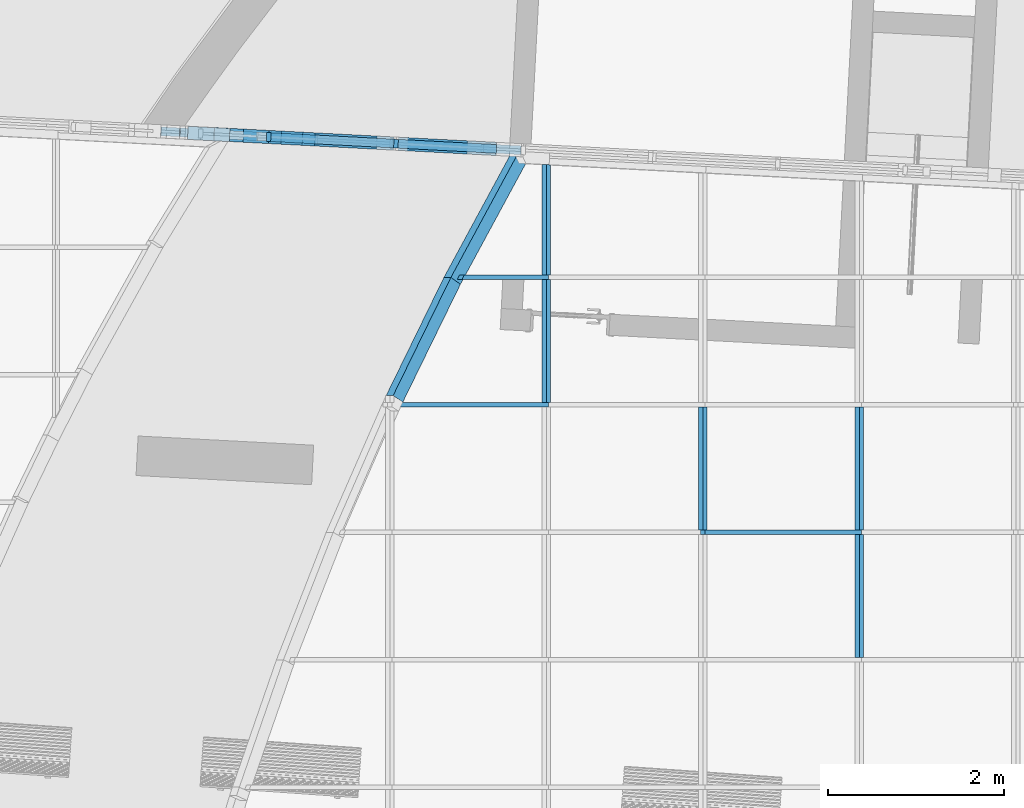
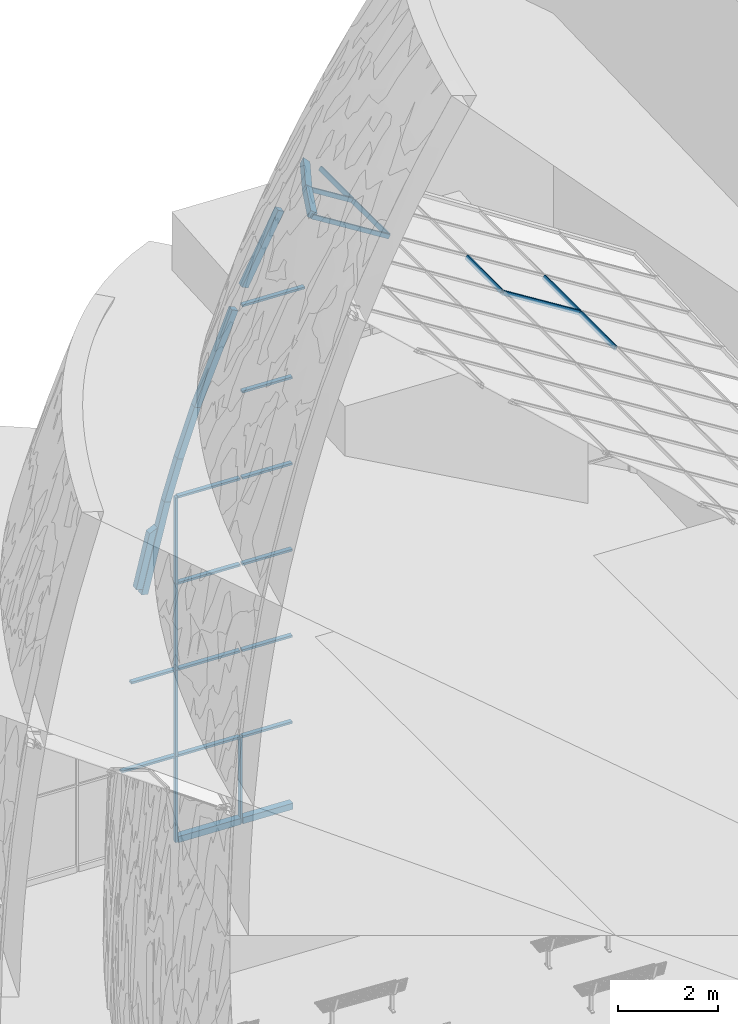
# One storey, part 19 of 82: 35 members, 2 elements without a shape of their own.
"""IFC2X3 building model written with IfcOpenShell, lengths in millimetres."""

import ifcopenshell
import ifcopenshell.guid

model = None  # the IFC model being written
_history = None  # IfcOwnerHistory: only IFC2X3 demands one
_inside = {}  # id of a spatial element -> (the spatial element, [elements in it])
_under = {}  # id of a project, library or spatial element -> (it, [spatial elements below it])
_declared = {}  # id of a project -> (the project, [libraries it declares])
_typed = {}  # id of a type object -> (the type object, [elements of that type])
_made_of = {}  # id of a material, layer set ... -> (it, [elements and type objects made of it])


def new_model(schema):
    """Start an empty IFC model of exactly this schema.

    Asked for "IFC4X3", IfcOpenShell would pick the latest addendum, in which some entities
    have other attributes; the version numbers below select the first issue.
    IFC2X3 requires an IfcOwnerHistory on every rooted entity: one is made here for all.
    """
    global model, _history
    if schema == "IFC4X3":
        model = ifcopenshell.file(schema_version=(4, 3, 0, 0))
    else:
        model = ifcopenshell.file(schema=schema)
    _inside.clear()
    _under.clear()
    _declared.clear()
    _typed.clear()
    _made_of.clear()
    _history = None
    if model.schema == "IFC2X3":
        org = make("IfcOrganization", Name="unknown")
        user = make(
            "IfcPersonAndOrganization",
            ThePerson=make("IfcPerson", FamilyName="unknown"),
            TheOrganization=org,
        )
        app = make(
            "IfcApplication",
            ApplicationDeveloper=org,
            Version="unknown",
            ApplicationFullName="unknown",
            ApplicationIdentifier="unknown",
        )
        _history = make(
            "IfcOwnerHistory",
            OwningUser=user,
            OwningApplication=app,
            ChangeAction="ADDED",
            CreationDate=0,
        )
    return model


def make(cls, **values):
    """One entity of the class cls with the attributes given. An attribute that is None is left unset."""
    return model.create_entity(
        cls, **{name: value for name, value in values.items() if value is not None}
    )


def entity(cls, *values):
    """Any entity or typed value of the class cls, its attributes in the order of the schema. None: left unset."""
    e = model.create_entity(cls)
    for i, value in enumerate(values):
        if value is not None:
            e[i] = value
    return e


def rooted(cls, **values):
    """An entity with a GlobalId (a new one), such as an element, a storey or a relation."""
    return make(cls, GlobalId=ifcopenshell.guid.new(), OwnerHistory=_history, **values)


def si_unit(unit_type, name, prefix=None):
    """IfcSIUnit, for example si_unit("LENGTHUNIT", "METRE", prefix="MILLI")."""
    return make("IfcSIUnit", UnitType=unit_type, Prefix=prefix, Name=name)


def converted_unit(unit_type, name, factor, base, dimensions=None, offset=None):
    """IfcConversionBasedUnit, such as the inch: factor (a typed value) times the base unit."""
    return make(
        "IfcConversionBasedUnit"
        if offset is None
        else "IfcConversionBasedUnitWithOffset",
        ConversionOffset=offset,
        Dimensions=None
        if dimensions is None
        else entity("IfcDimensionalExponents", *dimensions),
        UnitType=unit_type,
        Name=name,
        ConversionFactor=make(
            "IfcMeasureWithUnit", ValueComponent=factor, UnitComponent=base
        ),
    )


def derived_unit(unit_type, elements):
    """IfcDerivedUnit: a product of units, each with its exponent."""
    return make(
        "IfcDerivedUnit",
        Elements=[
            make("IfcDerivedUnitElement", Unit=unit, Exponent=power)
            for unit, power in elements
        ],
        UnitType=unit_type,
    )


def assignment(units):
    """IfcUnitAssignment: the units of a project."""
    return None if units is None else make("IfcUnitAssignment", Units=units)


def point(xyz):
    """IfcCartesianPoint."""
    return None if xyz is None else make("IfcCartesianPoint", Coordinates=xyz)


def direction(xyz):
    """IfcDirection."""
    return None if xyz is None else make("IfcDirection", DirectionRatios=xyz)


def frame(location, z_axis=None, x_axis=None):
    """IfcAxis2Placement3D, a coordinate frame: its origin and axes. An axis left out is left unset."""
    return make(
        "IfcAxis2Placement3D",
        Location=point(location),
        Axis=direction(z_axis),
        RefDirection=direction(x_axis),
    )


def frame_2d(location, x_axis=None):
    """IfcAxis2Placement2D, a coordinate frame in the plane: its origin and x axis."""
    return make(
        "IfcAxis2Placement2D", Location=point(location), RefDirection=direction(x_axis)
    )


def origin():
    """The frame at (0, 0, 0) with its axes left unset."""
    return frame((0.0, 0.0, 0.0))


def origin_2d_with_axis():
    """The frame at (0, 0) in the plane with the x axis (1, 0) written out."""
    return frame_2d((0.0, 0.0), x_axis=(1.0, 0.0))


def place(relative_to, where):
    """IfcLocalPlacement: puts the frame where relative to a parent placement (None: the world)."""
    return make(
        "IfcLocalPlacement", PlacementRelTo=relative_to, RelativePlacement=where
    )


def context(
    kind, dimensions, precision=None, world=None, true_north=None, identifier=None
):
    """IfcGeometricRepresentationContext, for example the 3D "Model" context."""
    return make(
        "IfcGeometricRepresentationContext",
        ContextIdentifier=identifier,
        ContextType=kind,
        CoordinateSpaceDimension=dimensions,
        Precision=precision,
        WorldCoordinateSystem=world,
        TrueNorth=true_north,
    )


def subcontext(parent, identifier, kind, view, scale=None):
    """IfcGeometricRepresentationSubContext, for example "Body" below "Model"."""
    return make(
        "IfcGeometricRepresentationSubContext",
        ContextIdentifier=identifier,
        ContextType=kind,
        ParentContext=parent,
        TargetScale=scale,
        TargetView=view,
    )


def project(units=None, contexts=None):
    """IfcProject with its units and contexts."""
    return rooted(
        "IfcProject",
        Name="project",
        RepresentationContexts=contexts,
        UnitsInContext=assignment(units),
    )


def spatial(cls, under=None, at=None, **own):
    """A site, building, storey or space (cls), placed at a placement, below another one or the project."""
    s = rooted(cls, ObjectPlacement=at, **own)
    if under is not None:
        _under.setdefault(under.id(), (under, []))[1].append(s)
    return s


def polyline(points):
    """IfcPolyline through the points."""
    return make("IfcPolyline", Points=[point(p) for p in points])


def profile(cls, at=None, kind="AREA", **sizes):
    """A parametric profile (cls). Its sizes go by their IFC names, for example OverallWidth=200.0."""
    return make(cls, ProfileType=kind, Position=at, **sizes)


def rectangle(**sizes):
    """IfcRectangleProfileDef."""
    return profile("IfcRectangleProfileDef", **sizes)


def extrude(swept, where, along, depth):
    """IfcExtrudedAreaSolid: the profile swept, set in the frame where, extruded along a direction by depth."""
    return make(
        "IfcExtrudedAreaSolid",
        SweptArea=swept,
        Position=where,
        ExtrudedDirection=direction(along),
        Depth=depth,
    )


def clip(a, b, op="DIFFERENCE"):
    """IfcBooleanClippingResult: the solid a cut by the half space b."""
    return make(
        "IfcBooleanClippingResult", Operator=op, FirstOperand=a, SecondOperand=b
    )


def halfspace(plane, agree):
    """IfcHalfSpaceSolid: all space on one side of the plane z = 0 of the frame plane."""
    return make(
        "IfcHalfSpaceSolid",
        BaseSurface=make("IfcPlane", Position=plane),
        AgreementFlag=agree,
    )


def bounded_halfspace(plane, agree, where, boundary):
    """IfcPolygonalBoundedHalfSpace: a half space limited to a polygon's prism."""
    return make(
        "IfcPolygonalBoundedHalfSpace",
        BaseSurface=make("IfcPlane", Position=plane),
        AgreementFlag=agree,
        Position=where,
        PolygonalBoundary=boundary,
    )


def shape(context_of_items, identifier, shape_type, items):
    """IfcShapeRepresentation: the items that make up one representation, for example the "Body"."""
    return make(
        "IfcShapeRepresentation",
        ContextOfItems=context_of_items,
        RepresentationIdentifier=identifier,
        RepresentationType=shape_type,
        Items=items,
    )


def source(mapping_origin, context_of_items, identifier, shape_type, items):
    """IfcRepresentationMap: a shape defined once, which mapped items show again and again."""
    return make(
        "IfcRepresentationMap",
        MappingOrigin=mapping_origin,
        MappedRepresentation=shape(context_of_items, identifier, shape_type, items),
    )


def transform(
    local_origin,
    x_axis=None,
    y_axis=None,
    z_axis=None,
    scale=None,
    scale2=None,
    scale3=None,
    uniform=True,
):
    """IfcCartesianTransformationOperator3D, or its non-uniform kind. x_axis, y_axis, z_axis: its Axis1, 2, 3."""
    if uniform:
        return make(
            "IfcCartesianTransformationOperator3D",
            Axis1=direction(x_axis),
            Axis2=direction(y_axis),
            LocalOrigin=point(local_origin),
            Scale=scale,
            Axis3=direction(z_axis),
        )
    return make(
        "IfcCartesianTransformationOperator3DnonUniform",
        Axis1=direction(x_axis),
        Axis2=direction(y_axis),
        LocalOrigin=point(local_origin),
        Scale=scale,
        Axis3=direction(z_axis),
        Scale2=scale2,
        Scale3=scale3,
    )


def mapped(mapping_source, mapping_target):
    """IfcMappedItem: shows the shape of a source again, moved by a transform."""
    return make(
        "IfcMappedItem", MappingSource=mapping_source, MappingTarget=mapping_target
    )


def material(Name=None, Category=None):
    """IfcMaterial."""
    return make("IfcMaterial", Name=Name, Category=Category)


def made_of(thing, what):
    """Note that an element or type object is made of a material, layer set ...; save() writes the relation."""
    if what is not None:
        _made_of.setdefault(what.id(), (what, []))[1].append(thing)
    return thing


def type_object(cls, material=None, **own):
    """A type object (cls), such as IfcWallType, which elements share."""
    return made_of(rooted(cls, **own), material)


def type_shapes(of_type, sources):
    """Give a type object the sources (RepresentationMaps) that its elements show as mapped items."""
    of_type.RepresentationMaps = sources


def element(
    cls,
    number,
    at=None,
    inside=None,
    cuts=None,
    type_object=None,
    material=None,
    context=None,
    identifier="Body",
    shape_type=None,
    held_by="IfcProductDefinitionShape",
    body=None,
    shapes=None,
    **own,
):
    """One element of the class cls, such as IfcWall. Its Tag is "e" and its number.

    at: its placement. inside: the storey or other place that contains it. cuts: it is an
    opening in that element (IfcRelVoidsElement). A single representation is given by context,
    identifier, shape_type and body (its items); several are given by shapes. held_by: the class
    of the entity that holds the representations. save() writes the other relations.
    """
    e = rooted(cls, Tag="e%d" % number, ObjectPlacement=at, **own)
    if body is not None:
        shapes = [shape(context, identifier, shape_type, body)]
    if shapes is not None:
        e.Representation = make(held_by, Representations=shapes)
    if inside is not None:
        _inside.setdefault(inside.id(), (inside, []))[1].append(e)
    if cuts is not None:
        rooted(
            "IfcRelVoidsElement", RelatingBuildingElement=cuts, RelatedOpeningElement=e
        )
    if type_object is not None:
        _typed.setdefault(type_object.id(), (type_object, []))[1].append(e)
    return made_of(e, material)


def aggregate(whole, parts):
    """IfcRelAggregates: a whole, such as a stair, and the parts it consists of."""
    return rooted("IfcRelAggregates", RelatingObject=whole, RelatedObjects=parts)


def save(model, path):
    """Write the relations noted so far, then the file.

    IfcRelAggregates (storeys below a building ...), IfcRelContainedInSpatialStructure (elements
    in a storey), IfcRelDefinesByType, IfcRelAssociatesMaterial and IfcRelDeclares: one each for
    every whole, place, type object, material and project.
    """
    for whole, parts in _under.values():
        aggregate(whole, parts)
    for where, things in _inside.values():
        rooted(
            "IfcRelContainedInSpatialStructure",
            RelatedElements=things,
            RelatingStructure=where,
        )
    for kind, things in _typed.values():
        rooted("IfcRelDefinesByType", RelatedObjects=things, RelatingType=kind)
    for what, things in _made_of.values():
        rooted("IfcRelAssociatesMaterial", RelatedObjects=things, RelatingMaterial=what)
    for by, libraries in _declared.values():
        rooted("IfcRelDeclares", RelatingContext=by, RelatedDefinitions=libraries)
    model.write(path)


model = new_model("IFC2X3")

# Units and contexts
model_context = context("Model", 3, precision=0.01, world=origin(), true_north=direction((6.12303176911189e-17, 1.0)))
body_context = subcontext(model_context, "Body", "Model", "MODEL_VIEW")
ifc_project = project(units=[si_unit("LENGTHUNIT", "METRE", prefix="MILLI"), si_unit("AREAUNIT", "SQUARE_METRE"), si_unit("VOLUMEUNIT", "CUBIC_METRE"), converted_unit("PLANEANGLEUNIT", "DEGREE", entity("IfcRatioMeasure", 0.0174532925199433), si_unit("PLANEANGLEUNIT", "RADIAN"), dimensions=[0, 0, 0, 0, 0, 0, 0]), si_unit("MASSUNIT", "GRAM", prefix="KILO"), derived_unit("MASSDENSITYUNIT", [(si_unit("MASSUNIT", "GRAM", prefix="KILO"), 1), (si_unit("LENGTHUNIT", "METRE"), -3)]), si_unit("TIMEUNIT", "SECOND"), si_unit("FREQUENCYUNIT", "HERTZ"), si_unit("THERMODYNAMICTEMPERATUREUNIT", "DEGREE_CELSIUS"), derived_unit("THERMALTRANSMITTANCEUNIT", [(si_unit("MASSUNIT", "GRAM", prefix="KILO"), 1), (si_unit("THERMODYNAMICTEMPERATUREUNIT", "KELVIN"), -1), (si_unit("TIMEUNIT", "SECOND"), -3)]), derived_unit("VOLUMETRICFLOWRATEUNIT", [(si_unit("LENGTHUNIT", "METRE"), 3), (si_unit("TIMEUNIT", "SECOND"), -1)]), si_unit("ELECTRICCURRENTUNIT", "AMPERE"), si_unit("ELECTRICVOLTAGEUNIT", "VOLT"), si_unit("POWERUNIT", "WATT"), si_unit("FORCEUNIT", "NEWTON", prefix="KILO"), si_unit("ILLUMINANCEUNIT", "LUX"), si_unit("LUMINOUSFLUXUNIT", "LUMEN"), si_unit("LUMINOUSINTENSITYUNIT", "CANDELA"), derived_unit("USERDEFINED", [(si_unit("MASSUNIT", "GRAM", prefix="KILO"), -1), (si_unit("LENGTHUNIT", "METRE"), -2), (si_unit("TIMEUNIT", "SECOND"), 3), (si_unit("LUMINOUSFLUXUNIT", "LUMEN"), 1)]), derived_unit("LINEARVELOCITYUNIT", [(si_unit("LENGTHUNIT", "METRE"), 1), (si_unit("TIMEUNIT", "SECOND"), -1)]), si_unit("PRESSUREUNIT", "PASCAL"), derived_unit("USERDEFINED", [(si_unit("LENGTHUNIT", "METRE"), -2), (si_unit("MASSUNIT", "GRAM", prefix="KILO"), 1), (si_unit("TIMEUNIT", "SECOND"), -2)])], contexts=[model_context])

# Site, building, storey
site_placement = place(None, origin())
site = spatial("IfcSite", under=ifc_project, at=site_placement, Name="表面", CompositionType="ELEMENT")
building_placement = place(site_placement, origin())
building = spatial("IfcBuilding", under=site, at=building_placement, CompositionType="ELEMENT")
storey_placement = place(building_placement, origin())
storey = spatial("IfcBuildingStorey", under=building, at=storey_placement, Name="1F", CompositionType="ELEMENT", Elevation=0.0)

# Curtain wall, members
curtain_wall_type = type_object("IfcCurtainWallType", Name="幕墙系统:1450 x 2100mm", PredefinedType="NOTDEFINED")
curtain_wall_1_placement = place(storey_placement, origin())
curtain_wall_1 = element("IfcCurtainWall", 1, at=curtain_wall_1_placement, inside=storey, type_object=curtain_wall_type, Name="幕墙系统:1450 x 2100mm", ObjectType="幕墙系统:1450 x 2100mm")
ifc_material_1 = material(Name="金属 - 铝")
member_type_1 = type_object("IfcMemberType", Name="50 x 100mm", PredefinedType="MEMBER")
shared_shape_1 = source(origin(), body_context, "Body", "SweptSolid", [
    extrude(rectangle(XDim=100.0, YDim=50.0, at=origin_2d_with_axis()), frame((0.0, 0.0, -1400.0), z_axis=(0.0, 0.0, 1.0), x_axis=(0.0, -1.0, 0.0)), (0.0, 0.0, 1.0), 1400.0),
])
type_shapes(member_type_1, [shared_shape_1])
placement_1 = place(building_placement, frame((0.0, 0.0, 9000.0)))
member_1_placement = place(placement_1, frame((-21700.0006149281, -363.903153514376, 4255.86225190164), z_axis=(0.0, 1.0, 0.0), x_axis=(-0.848048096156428, 0.0, 0.529919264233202)))
member_1 = element("IfcMember", 2, at=member_1_placement, type_object=member_type_1, material=ifc_material_1, Name="矩形竖梃:50 x 100mm", ObjectType="50 x 100mm", context=body_context, shape_type="MappedRepresentation", body=[
    mapped(shared_shape_1, transform((0.0, 0.0, 0.0), scale=1.0)),
])
member_2_placement = place(placement_1, frame((-21700.0006149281, -1813.90315351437, 4255.86225190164), z_axis=(0.0, 1.0, 0.0), x_axis=(-0.848048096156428, 0.0, 0.529919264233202)))
member_2 = element("IfcMember", 3, at=member_2_placement, type_object=member_type_1, material=ifc_material_1, Name="矩形竖梃:50 x 100mm", ObjectType="50 x 100mm", context=body_context, shape_type="MappedRepresentation", body=[
    mapped(shared_shape_1, transform((0.0, 0.0, 0.0), scale=1.0)),
])
member_3_placement = place(placement_1, frame((-23480.9016168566, -363.903153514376, 5368.69270679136), z_axis=(0.0, 1.0, 0.0), x_axis=(-0.848048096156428, 0.0, 0.529919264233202)))
member_3 = element("IfcMember", 4, at=member_3_placement, type_object=member_type_1, material=ifc_material_1, Name="矩形竖梃:50 x 100mm", ObjectType="50 x 100mm", context=body_context, shape_type="MappedRepresentation", body=[
    mapped(shared_shape_1, transform((0.0, 0.0, 0.0), scale=1.0)),
])
member_4_placement = place(placement_1, frame((-25261.8026187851, 1086.09684648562, 6481.52316168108), z_axis=(0.0, 1.0, 0.0), x_axis=(-0.848048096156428, 0.0, 0.529919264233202)))
member_4 = element("IfcMember", 5, at=member_4_placement, type_object=member_type_1, material=ifc_material_1, Name="矩形竖梃:50 x 100mm", ObjectType="50 x 100mm", context=body_context, shape_type="MappedRepresentation", body=[
    mapped(shared_shape_1, transform((0.0, 0.0, 0.0), scale=1.0)),
])
member_5_placement = place(storey_placement, frame((-28393.322010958, 2707.44789992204, 2100.0), z_axis=(-0.998629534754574, 0.0523359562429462, 0.0), x_axis=(0.0, 0.0, 1.0)))
member_5 = element("IfcMember", 6, at=member_5_placement, type_object=member_type_1, material=ifc_material_1, Name="矩形竖梃:50 x 100mm", ObjectType="50 x 100mm", context=body_context, shape_type="MappedRepresentation", body=[
    mapped(shared_shape_1, transform((0.0, 0.0, 0.0), scale=1.0)),
])
placement_2 = place(building_placement, frame((0.0, 0.0, 3000.0)))
member_6_placement = place(placement_2, frame((-28393.322010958, 2707.44789992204, 1200.0), z_axis=(-0.998629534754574, 0.0523359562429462, 0.0), x_axis=(0.0, 0.0, 1.0)))
member_6 = element("IfcMember", 7, at=member_6_placement, type_object=member_type_1, material=ifc_material_1, Name="矩形竖梃:50 x 100mm", ObjectType="50 x 100mm", context=body_context, shape_type="MappedRepresentation", body=[
    mapped(shared_shape_1, transform((0.0, 0.0, 0.0), scale=1.0)),
])
placement_3 = place(building_placement, frame((0.0, 0.0, 6000.0)))
member_7_placement = place(placement_3, frame((-28393.322010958, 2707.44789992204, 300.0), z_axis=(-0.998629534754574, 0.0523359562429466, 0.0), x_axis=(0.0, 0.0, 1.0)))
member_7 = element("IfcMember", 8, at=member_7_placement, type_object=member_type_1, material=ifc_material_1, Name="矩形竖梃:50 x 100mm", ObjectType="50 x 100mm", context=body_context, shape_type="MappedRepresentation", body=[
    mapped(shared_shape_1, transform((0.0, 0.0, 0.0), scale=1.0)),
])
member_8_placement = place(placement_3, frame((-28393.322010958, 2707.44789992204, 2400.0), z_axis=(-0.998629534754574, 0.0523359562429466, 0.0), x_axis=(0.0, 0.0, 1.0)))
member_8 = element("IfcMember", 9, at=member_8_placement, type_object=member_type_1, material=ifc_material_1, Name="矩形竖梃:50 x 100mm", ObjectType="50 x 100mm", context=body_context, shape_type="MappedRepresentation", body=[
    mapped(shared_shape_1, transform((0.0, 0.0, 0.0), scale=1.0)),
])
member_9_placement = place(placement_1, frame((-26945.3091855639, 2631.56076336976, 3600.0), z_axis=(-0.998629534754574, 0.0523359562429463, 0.0), x_axis=(0.0, 0.0, 1.0)))
member_9 = element("IfcMember", 10, at=member_9_placement, type_object=member_type_1, material=ifc_material_1, Name="矩形竖梃:50 x 100mm", ObjectType="50 x 100mm", context=body_context, shape_type="MappedRepresentation", body=[
    mapped(shared_shape_1, transform((0.0, 0.0, 0.0), scale=1.0)),
])
member_type_2 = type_object("IfcMemberType", Name="50 x 100mm", PredefinedType="MEMBER")
shared_shape_2 = source(origin(), body_context, "Body", "SweptSolid", [
    extrude(rectangle(XDim=100.0, YDim=50.0, at=origin_2d_with_axis()), frame((0.0, 0.0, -2100.0), z_axis=(0.0, 0.0, 1.0), x_axis=(0.0, -1.0, 0.0)), (0.0, 0.0, 1.0), 2100.0),
])
type_shapes(member_type_2, [shared_shape_2])
member_10_placement = place(storey_placement, frame((-28418.2877493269, 2708.75629882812, 2100.0), z_axis=(0.0, 0.0, 1.0), x_axis=(0.998629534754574, -0.0523359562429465, 0.0)))
member_10 = element("IfcMember", 11, at=member_10_placement, type_object=member_type_2, material=ifc_material_1, Name="矩形竖梃:50 x 100mm", ObjectType="50 x 100mm", context=body_context, shape_type="MappedRepresentation", body=[
    mapped(shared_shape_2, transform((0.0, 0.0, 0.0), scale=1.0)),
])
member_11_placement = place(storey_placement, frame((-26970.2749239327, 2632.86916227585, 2100.0), z_axis=(0.0, 0.0, 1.0), x_axis=(0.998629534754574, -0.0523359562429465, 0.0)))
member_11 = element("IfcMember", 12, at=member_11_placement, type_object=member_type_2, material=ifc_material_1, Name="矩形竖梃:50 x 100mm", ObjectType="50 x 100mm", context=body_context, shape_type="MappedRepresentation", body=[
    mapped(shared_shape_2, transform((0.0, 0.0, 0.0), scale=1.0)),
])
member_type_3 = type_object("IfcMemberType", Name="50 x 100mm", PredefinedType="MEMBER")
shared_shape_3 = source(origin(), body_context, "Body", "SweptSolid", [
    extrude(rectangle(XDim=100.0, YDim=50.0, at=origin_2d_with_axis()), frame((0.0, 0.0, -2100.0), z_axis=(0.0, 0.0, 1.0), x_axis=(0.0, -1.0, 0.0)), (0.0, 0.0, 1.0), 2100.0),
])
type_shapes(member_type_3, [shared_shape_3])
member_12_placement = place(placement_1, frame((-23480.9016168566, -1788.90315351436, 5368.69270679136), z_axis=(-0.848048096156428, 0.0, 0.529919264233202), x_axis=(0.0, -1.0, 0.0)))
member_12 = element("IfcMember", 13, at=member_12_placement, type_object=member_type_3, material=ifc_material_1, Name="矩形竖梃:50 x 100mm", ObjectType="50 x 100mm", context=body_context, shape_type="MappedRepresentation", body=[
    mapped(shared_shape_3, transform((0.0, 0.0, 0.0), scale=1.0)),
])
member_13_placement = place(placement_1, frame((-27042.7036207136, -338.90315351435, 7594.35361657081), z_axis=(-0.848048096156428, 0.0, 0.529919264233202), x_axis=(0.0, -1.0, 0.0)))
member_13 = element("IfcMember", 14, at=member_13_placement, type_object=member_type_3, material=ifc_material_1, Name="矩形竖梃:50 x 100mm", ObjectType="50 x 100mm", context=body_context, shape_type="MappedRepresentation", body=[
    mapped(shared_shape_3, transform((0.0, 0.0, 0.0), scale=1.0)),
])
member_14_placement = place(storey_placement, frame((-28418.2877493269, 2708.75629882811, 4200.0), z_axis=(0.0, 0.0, 1.0), x_axis=(0.998629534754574, -0.0523359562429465, 0.0)))
member_14 = element("IfcMember", 15, at=member_14_placement, type_object=member_type_3, material=ifc_material_1, Name="矩形竖梃:50 x 100mm", ObjectType="50 x 100mm", context=body_context, shape_type="MappedRepresentation", body=[
    mapped(shared_shape_3, transform((0.0, 0.0, 0.0), scale=1.0)),
])
member_15_placement = place(placement_2, frame((-28418.2877493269, 2708.75629882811, 3300.0), z_axis=(0.0, 0.0, 1.0), x_axis=(0.998629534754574, -0.0523359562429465, 0.0)))
member_15 = element("IfcMember", 16, at=member_15_placement, type_object=member_type_3, material=ifc_material_1, Name="矩形竖梃:50 x 100mm", ObjectType="50 x 100mm", context=body_context, shape_type="MappedRepresentation", body=[
    mapped(shared_shape_3, transform((0.0, 0.0, 0.0), scale=1.0)),
])
member_16_placement = place(placement_3, frame((-28418.2877493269, 2708.75629882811, 2400.0), z_axis=(0.0, 0.0, 1.0), x_axis=(0.998629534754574, -0.0523359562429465, 0.0)))
member_16 = element("IfcMember", 17, at=member_16_placement, type_object=member_type_3, material=ifc_material_1, Name="矩形竖梃:50 x 100mm", ObjectType="50 x 100mm", context=body_context, shape_type="MappedRepresentation", body=[
    mapped(shared_shape_3, transform((0.0, 0.0, 0.0), scale=1.0)),
])
ifc_material_2 = material(Name="木质 - 木材")
member_type_4 = type_object("IfcMemberType", Name="200 x 150mm", PredefinedType="MEMBER")
shared_shape_4 = source(origin(), body_context, "Body", "SweptSolid", [
    extrude(rectangle(XDim=150.0, YDim=150.0, at=origin_2d_with_axis()), frame((-75.0, 0.0, -1400.0), z_axis=(0.0, 0.0, 1.0), x_axis=(0.0, -1.0, 0.0)), (0.0, 0.0, 1.0), 1400.0),
])
type_shapes(member_type_4, [shared_shape_4])
member_17_placement = place(storey_placement, frame((-26995.2406623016, 2634.17756118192, 0.0), z_axis=(0.998629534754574, -0.0523359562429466, 0.0), x_axis=(0.0, 0.0, -1.0)))
member_17 = element("IfcMember", 18, at=member_17_placement, type_object=member_type_4, material=ifc_material_2, Name="矩形竖梃:200 x 150mm", ObjectType="200 x 150mm", context=body_context, shape_type="MappedRepresentation", body=[
    mapped(shared_shape_4, transform((0.0, 0.0, 0.0), scale=1.0)),
])
member_type_5 = type_object("IfcMemberType", Name="200 x 150mm", PredefinedType="MEMBER")
shared_shape_5 = source(origin(), body_context, "Body", "Clipping", [
    clip(clip(extrude(rectangle(XDim=150.0, YDim=150.0, at=frame_2d((6.3948846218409e-14, -1.35003119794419e-13), x_axis=(1.0, 0.0))), frame((-75.0, 0.0, -1720.07291536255), z_axis=(0.0, 0.0, 1.0), x_axis=(0.0, -1.0, 0.0)), (0.0, 0.0, 1.0), 1720.07291536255), halfspace(frame((0.0, -304.799999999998, -1720.07291536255), z_axis=(-0.0225670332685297, 0.0, -0.999745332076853), x_axis=(-0.999745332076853, 0.0, 0.0225670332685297)), False)), halfspace(frame((0.0, -304.8, 0.0), z_axis=(-0.500013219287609, 0.0, 0.866017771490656), x_axis=(-0.866017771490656, 0.0, -0.500013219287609)), False)),
])
type_shapes(member_type_5, [shared_shape_5])
member_18_placement = place(placement_1, frame((-25600.7775559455, 2561.09684648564, 6693.33821097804), z_axis=(0.456193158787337, 0.84298751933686, -0.285061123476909), x_axis=(-0.714893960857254, 0.537933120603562, 0.446715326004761)))
member_18 = element("IfcMember", 19, at=member_18_placement, type_object=member_type_5, material=ifc_material_2, Name="矩形竖梃:200 x 150mm", ObjectType="200 x 150mm", context=body_context, shape_type="MappedRepresentation", body=[
    mapped(shared_shape_5, transform((0.0, 0.0, 0.0), scale=1.0)),
])
member_type_6 = type_object("IfcMemberType", Name="200 x 150mm", PredefinedType="MEMBER")
shared_shape_6 = source(origin(), body_context, "Body", "Clipping", [
    clip(clip(extrude(rectangle(XDim=150.0, YDim=150.0, at=frame_2d((7.8159700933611e-14, -1.4210854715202e-14), x_axis=(1.0, 0.0))), frame((-75.0, 0.0, -1552.03333306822), z_axis=(0.0, 0.0, 1.0), x_axis=(0.0, -1.0, 0.0)), (0.0, 0.0, 1.0), 1552.03333306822), halfspace(frame((0.0, -304.800000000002, -1552.03333306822), z_axis=(-0.0115318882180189, 0.0, -0.999933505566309), x_axis=(-0.999933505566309, 0.0, 0.0115318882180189)), False)), halfspace(frame((0.0, -304.8, 0.0), z_axis=(-0.0225670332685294, 0.0, 0.999745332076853), x_axis=(-0.999745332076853, 0.0, -0.0225670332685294)), False)),
])
type_shapes(member_type_6, [shared_shape_6])
member_19_placement = place(placement_1, frame((-26385.4630525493, 1111.09684648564, 7183.66412869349), z_axis=(0.423470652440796, 0.866401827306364, -0.264613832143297), x_axis=(-0.734750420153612, 0.499347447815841, 0.45912301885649)))
member_19 = element("IfcMember", 20, at=member_19_placement, type_object=member_type_6, material=ifc_material_2, Name="矩形竖梃:200 x 150mm", ObjectType="200 x 150mm", context=body_context, shape_type="MappedRepresentation", body=[
    mapped(shared_shape_6, transform((0.0, 0.0, 0.0), scale=1.0)),
])
member_type_7 = type_object("IfcMemberType", Name="50 x 100mm", PredefinedType="MEMBER")
shared_shape_7 = source(origin(), body_context, "Body", "Clipping", [
    clip(clip(extrude(rectangle(XDim=100.0, YDim=50.0, at=origin_2d_with_axis()), frame((0.0, 0.0, -1407.23507631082), z_axis=(0.0, 0.0, 1.0), x_axis=(0.0, -1.0, 0.0)), (0.0, 0.0, 1.0), 1258.19811003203), bounded_halfspace(frame((-2093.33992695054, 75.0, -243.185138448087), z_axis=(-0.0444004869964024, 0.0, 0.999013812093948), x_axis=(0.999013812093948, 0.0, 0.0444004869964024)), False, frame((0.0, 0.0, -1407.23507631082), z_axis=(0.0, 0.0, 1.0), x_axis=(0.0, -1.0, 0.0)), polyline([(-50.0, 6.66007304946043), (-50.0, -25.0), (50.0, -25.0), (50.0, 6.66007304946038), (-50.0, 6.66007304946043)]))), bounded_halfspace(frame((6.66007304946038, 75.0, -149.852071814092), z_axis=(-0.0444004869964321, 0.0, 0.999013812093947), x_axis=(0.999013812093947, 0.0, 0.0444004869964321)), False, frame((0.0, 0.0, -1407.23507631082), z_axis=(0.0, 0.0, 1.0), x_axis=(0.0, -1.0, 0.0)), polyline([(-50.0, 25.0), (-50.0, 6.66007304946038), (50.0, 6.66007304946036), (50.0, 25.0), (-50.0, 25.0)]))),
])
type_shapes(member_type_7, [shared_shape_7])
member_20_placement = place(placement_1, frame((-25261.8026187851, 2543.33192279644, 6481.52316168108), z_axis=(0.0, 1.0, 0.0), x_axis=(-0.848048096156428, 0.0, 0.529919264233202)))
member_20 = element("IfcMember", 21, at=member_20_placement, type_object=member_type_7, material=ifc_material_1, Name="矩形竖梃:50 x 100mm", ObjectType="50 x 100mm", context=body_context, shape_type="MappedRepresentation", body=[
    mapped(shared_shape_7, transform((0.0, 0.0, 0.0), scale=1.0)),
])
member_type_8 = type_object("IfcMemberType", Name="50 x 100mm", PredefinedType="MEMBER")
shared_shape_8 = source(origin(), body_context, "Body", "Clipping", [
    clip(extrude(rectangle(XDim=100.0, YDim=50.0, at=frame_2d((-6.75015598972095e-14, 0.0), x_axis=(1.0, 0.0))), frame((0.0, 0.0, -1324.99611620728), z_axis=(0.0, 0.0, 1.0), x_axis=(0.0, -1.0, 0.0)), (0.0, 0.0, 1.0), 1163.01071446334), halfspace(frame((-1369.31003190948, 75.0, -1051.73231892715), z_axis=(-0.537933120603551, 0.0, 0.842987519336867), x_axis=(0.842987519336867, 0.0, 0.537933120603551)), False)),
])
type_shapes(member_type_8, [shared_shape_8])
member_21_placement = place(placement_1, frame((-26385.4630525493, 1111.09684648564, 7183.66412869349), z_axis=(-0.848048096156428, 0.0, 0.529919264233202), x_axis=(0.0, -1.0, 0.0)))
member_21 = element("IfcMember", 22, at=member_21_placement, type_object=member_type_8, material=ifc_material_1, Name="矩形竖梃:50 x 100mm", ObjectType="50 x 100mm", context=body_context, shape_type="MappedRepresentation", body=[
    mapped(shared_shape_8, transform((0.0, 0.0, 0.0), scale=1.0)),
])
member_type_9 = type_object("IfcMemberType", Name="200 x 150mm", PredefinedType="MEMBER")
shared_shape_9 = source(origin(), body_context, "Body", "SweptSolid", [
    extrude(rectangle(XDim=150.0, YDim=150.0, at=frame_2d((7.105427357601e-15, 0.0), x_axis=(1.0, 0.0))), frame((-75.0, 0.0, -1119.19697744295), z_axis=(0.0, 0.0, 1.0), x_axis=(0.0, -1.0, 0.0)), (0.0, 0.0, 1.0), 1119.19697744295),
])
type_shapes(member_type_9, [shared_shape_9])
member_22_placement = place(storey_placement, frame((-25827.6460286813, 2572.98651933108, 0.0), z_axis=(0.998629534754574, -0.0523359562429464, 0.0), x_axis=(0.0, 0.0, -1.0)))
member_22 = element("IfcMember", 23, at=member_22_placement, type_object=member_type_9, material=ifc_material_2, Name="矩形竖梃:200 x 150mm", ObjectType="200 x 150mm", context=body_context, shape_type="MappedRepresentation", body=[
    mapped(shared_shape_9, transform((0.0, 0.0, 0.0), scale=1.0)),
])
member_type_10 = type_object("IfcMemberType", Name="200 x 150mm", PredefinedType="MEMBER")
shared_shape_10 = source(origin(), body_context, "Body", "Clipping", [
    clip(clip(extrude(rectangle(XDim=150.0, YDim=150.0, at=frame_2d((-2.1316282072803e-14, 7.105427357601e-14), x_axis=(1.0, 0.0))), frame((-75.0, 0.0, -1198.76769089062), z_axis=(0.0, 0.0, 1.0), x_axis=(0.0, -1.0, 0.0)), (0.0, 0.0, 1.0), 1198.76769089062), halfspace(frame((0.0, -304.8, -1198.76769089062), z_axis=(-0.027954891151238, 0.0, -0.999609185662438), x_axis=(-0.999609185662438, 0.0, 0.027954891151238)), False)), halfspace(frame((0.0, -304.8, 0.0), z_axis=(-0.0178080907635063, 0.0, 0.999841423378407), x_axis=(-0.999841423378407, 0.0, -0.0178080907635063)), False)),
])
type_shapes(member_type_10, [shared_shape_10])
member_23_placement = place(placement_1, frame((-28418.2877493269, 2708.75629882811, 364.598989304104), z_axis=(-0.320380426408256, 0.0167904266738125, -0.947140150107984), x_axis=(-0.945842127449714, 0.0495694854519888, 0.32082009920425)))
member_23 = element("IfcMember", 24, at=member_23_placement, type_object=member_type_10, material=ifc_material_2, Name="矩形竖梃:200 x 150mm", ObjectType="200 x 150mm", context=body_context, shape_type="MappedRepresentation", body=[
    mapped(shared_shape_10, transform((0.0, 0.0, 0.0), scale=1.0)),
])
member_type_11 = type_object("IfcMemberType", Name="200 x 150mm", PredefinedType="MEMBER")
shared_shape_11 = source(origin(), body_context, "Body", "Clipping", [
    clip(clip(extrude(rectangle(XDim=150.0, YDim=150.0, at=frame_2d((-7.105427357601e-15, 9.9475983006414e-14), x_axis=(1.0, 0.0))), frame((-75.0, 0.0, -1808.57417035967), z_axis=(0.0, 0.0, 1.0), x_axis=(0.0, -1.0, 0.0)), (0.0, 0.0, 1.0), 1808.57417035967), halfspace(frame((0.0, -304.8, -1808.57417035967), z_axis=(-0.0238072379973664, 0.0, -0.999716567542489), x_axis=(-0.999716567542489, 0.0, 0.0238072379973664)), False)), halfspace(frame((0.0, -304.8, 0.0), z_axis=(-0.0188956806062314, 0.0, 0.999821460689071), x_axis=(-0.999821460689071, 0.0, -0.0188956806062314)), False)),
])
type_shapes(member_type_11, [shared_shape_11])
member_24_placement = place(placement_1, frame((-26970.2749239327, 2632.86916227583, 4083.82304500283), z_axis=(-0.448210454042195, 0.0234897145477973, -0.893619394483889), x_axis=(-0.89239472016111, 0.0467684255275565, 0.448825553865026)))
member_24 = element("IfcMember", 25, at=member_24_placement, type_object=member_type_11, material=ifc_material_2, Name="矩形竖梃:200 x 150mm", ObjectType="200 x 150mm", context=body_context, shape_type="MappedRepresentation", body=[
    mapped(shared_shape_11, transform((0.0, 0.0, 0.0), scale=1.0)),
])
member_type_12 = type_object("IfcMemberType", Name="200 x 150mm", PredefinedType="MEMBER")
shared_shape_12 = source(origin(), body_context, "Body", "Clipping", [
    clip(clip(extrude(rectangle(XDim=150.0, YDim=150.0, at=frame_2d((0.0, 7.105427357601e-14), x_axis=(1.0, 0.0))), frame((-75.0, 0.0, -2161.8615982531), z_axis=(0.0, 0.0, 1.0), x_axis=(0.0, -1.0, 0.0)), (0.0, 0.0, 1.0), 2161.8615982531), halfspace(frame((0.0, -304.8, -2161.8615982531), z_axis=(-0.0255848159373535, 0.0, -0.999672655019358), x_axis=(-0.999672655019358, 0.0, 0.0255848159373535)), False)), halfspace(frame((0.0, -304.8, 0.0), z_axis=(-0.0346581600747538, 0.0, 0.99939922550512), x_axis=(-0.99939922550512, 0.0, -0.0346581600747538)), False)),
])
type_shapes(member_type_12, [shared_shape_12])
member_25_placement = place(placement_3, frame((-29219.527934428, 2750.7475176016, 300.0), z_axis=(-0.237184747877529, 0.0124303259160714, -0.971385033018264), x_axis=(-0.970053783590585, 0.0508383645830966, 0.237510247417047)))
member_25 = element("IfcMember", 26, at=member_25_placement, type_object=member_type_12, material=ifc_material_2, Name="矩形竖梃:200 x 150mm", ObjectType="200 x 150mm", context=body_context, shape_type="MappedRepresentation", body=[
    mapped(shared_shape_12, transform((0.0, 0.0, 0.0), scale=1.0)),
])
member_type_13 = type_object("IfcMemberType", Name="200 x 150mm", PredefinedType="MEMBER")
shared_shape_13 = source(origin(), body_context, "Body", "Clipping", [
    clip(clip(extrude(rectangle(XDim=150.0, YDim=150.0, at=origin_2d_with_axis()), frame((-75.0, 0.0, -1006.92614106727), z_axis=(0.0, 0.0, 1.0), x_axis=(0.0, -1.0, 0.0)), (0.0, 0.0, 1.0), 1006.92614106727), halfspace(frame((0.0, -304.799999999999, -1006.92614106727), z_axis=(-0.0178080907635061, 0.0, -0.999841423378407), x_axis=(-0.999841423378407, 0.0, 0.0178080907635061)), False)), halfspace(frame((0.0, -304.8, 0.0), z_axis=(-0.0255848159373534, 0.0, 0.999672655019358), x_axis=(-0.999672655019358, 0.0, -0.0255848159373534)), False)),
])
type_shapes(member_type_13, [shared_shape_13])
member_26_placement = place(placement_3, frame((-28706.7673363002, 2723.87487334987, 2400.0), z_axis=(-0.286495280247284, 0.0150145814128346, -0.957963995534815), x_axis=(-0.956651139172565, 0.0501359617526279, 0.286888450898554)))
member_26 = element("IfcMember", 27, at=member_26_placement, type_object=member_type_13, material=ifc_material_2, Name="矩形竖梃:200 x 150mm", ObjectType="200 x 150mm", context=body_context, shape_type="MappedRepresentation", body=[
    mapped(shared_shape_13, transform((0.0, 0.0, 0.0), scale=1.0)),
])
member_type_14 = type_object("IfcMemberType", Name="200 x 150mm", PredefinedType="MEMBER")
shared_shape_14 = source(origin(), body_context, "Body", "Clipping", [
    clip(clip(extrude(rectangle(XDim=150.0, YDim=150.0, at=frame_2d((2.8421709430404e-14, 0.0), x_axis=(1.0, 0.0))), frame((-75.0, 0.0, -2263.59000320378), z_axis=(0.0, 0.0, 1.0), x_axis=(0.0, -1.0, 0.0)), (0.0, 0.0, 1.0), 2263.59000320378), halfspace(frame((0.0, -304.8, -2263.59000320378), z_axis=(-0.0225704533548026, 0.0, -0.999745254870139), x_axis=(-0.999745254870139, 0.0, 0.0225704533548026)), False)), halfspace(frame((0.0, -304.8, 0.0), z_axis=(-0.0279548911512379, 0.0, 0.999609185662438), x_axis=(-0.999609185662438, 0.0, -0.0279548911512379)), False)),
])
type_shapes(member_type_14, [shared_shape_14])
member_27_placement = place(placement_1, frame((-28034.2260453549, 2688.62847781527, 1500.0), z_axis=(-0.372740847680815, 0.019534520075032, -0.92772984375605), x_axis=(-0.926458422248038, 0.0485536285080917, 0.373252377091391)))
member_27 = element("IfcMember", 28, at=member_27_placement, type_object=member_type_14, material=ifc_material_2, Name="矩形竖梃:200 x 150mm", ObjectType="200 x 150mm", context=body_context, shape_type="MappedRepresentation", body=[
    mapped(shared_shape_14, transform((0.0, 0.0, 0.0), scale=1.0)),
])
member_type_15 = type_object("IfcMemberType", Name="50 x 100mm", PredefinedType="MEMBER")
shared_shape_15 = source(origin(), body_context, "Body", "Clipping", [
    clip(clip(extrude(rectangle(XDim=100.0, YDim=50.0, at=origin_2d_with_axis()), frame((0.0, 0.0, -1353.70827391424), z_axis=(0.0, 0.0, 1.0), x_axis=(0.0, -1.0, 0.0)), (0.0, 0.0, 1.0), 1204.47057258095), bounded_halfspace(frame((-10.1904975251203, 75.0, -149.7404608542), z_axis=(0.101787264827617, 0.0, 0.994806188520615), x_axis=(0.994806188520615, 0.0, -0.101787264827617)), False, frame((0.0, 0.0, -1353.70827391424), z_axis=(0.0, 0.0, 1.0), x_axis=(0.0, -1.0, 0.0)), polyline([(-50.0, 25.0), (-50.0, -10.1904975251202), (50.0, -10.1904975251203), (50.0, 25.0), (-50.0, 25.0)]))), bounded_halfspace(frame((-2105.08933427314, 75.0, -78.6219113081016), z_axis=(0.03392889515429, 0.0, 0.999424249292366), x_axis=(0.999424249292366, 0.0, -0.03392889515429)), False, frame((0.0, 0.0, -1353.70827391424), z_axis=(0.0, 0.0, 1.0), x_axis=(0.0, -1.0, 0.0)), polyline([(-50.0, -10.1904975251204), (-50.0, -25.0), (50.0, -25.0), (50.0, -10.1904975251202), (-50.0, -10.1904975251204)]))),
])
type_shapes(member_type_15, [shared_shape_15])
member_28_placement = place(storey_placement, frame((-29795.1065514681, 2780.91231472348, 2100.0), z_axis=(-0.998629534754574, 0.0523359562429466, 0.0), x_axis=(0.0, 0.0, 1.0)))
member_28 = element("IfcMember", 29, at=member_28_placement, type_object=member_type_15, material=ifc_material_1, Name="矩形竖梃:50 x 100mm", ObjectType="50 x 100mm", context=body_context, shape_type="MappedRepresentation", body=[
    mapped(shared_shape_15, transform((0.0, 0.0, 0.0), scale=1.0)),
])
member_type_16 = type_object("IfcMemberType", Name="50 x 100mm", PredefinedType="MEMBER")
shared_shape_16 = source(origin(), body_context, "Body", "SweptSolid", [
    extrude(rectangle(XDim=100.0, YDim=50.0, at=frame_2d((-7.105427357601e-15, 0.0), x_axis=(1.0, 0.0))), frame((0.0, 0.0, -1119.19697744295), z_axis=(0.0, 0.0, 1.0), x_axis=(0.0, -1.0, 0.0)), (0.0, 0.0, 1.0), 1119.19697744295),
])
type_shapes(member_type_16, [shared_shape_16])
member_29_placement = place(storey_placement, frame((-26945.3091855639, 2631.56076336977, 2100.0), z_axis=(-0.998629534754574, 0.0523359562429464, 0.0), x_axis=(0.0, 0.0, 1.0)))
member_29 = element("IfcMember", 30, at=member_29_placement, type_object=member_type_16, material=ifc_material_1, Name="矩形竖梃:50 x 100mm", ObjectType="50 x 100mm", context=body_context, shape_type="MappedRepresentation", body=[
    mapped(shared_shape_16, transform((0.0, 0.0, 0.0), scale=1.0)),
])
member_30_placement = place(placement_2, frame((-26945.3091855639, 2631.56076336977, 1200.0), z_axis=(-0.998629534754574, 0.0523359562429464, 0.0), x_axis=(0.0, 0.0, 1.0)))
member_30 = element("IfcMember", 31, at=member_30_placement, type_object=member_type_16, material=ifc_material_1, Name="矩形竖梃:50 x 100mm", ObjectType="50 x 100mm", context=body_context, shape_type="MappedRepresentation", body=[
    mapped(shared_shape_16, transform((0.0, 0.0, 0.0), scale=1.0)),
])
member_31_placement = place(placement_3, frame((-26945.3091855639, 2631.56076336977, 300.0), z_axis=(-0.998629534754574, 0.0523359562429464, 0.0), x_axis=(0.0, 0.0, 1.0)))
member_31 = element("IfcMember", 32, at=member_31_placement, type_object=member_type_16, material=ifc_material_1, Name="矩形竖梃:50 x 100mm", ObjectType="50 x 100mm", context=body_context, shape_type="MappedRepresentation", body=[
    mapped(shared_shape_16, transform((0.0, 0.0, 0.0), scale=1.0)),
])
member_32_placement = place(placement_3, frame((-26945.3091855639, 2631.56076336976, 2400.0), z_axis=(-0.998629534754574, 0.0523359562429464, 0.0), x_axis=(0.0, 0.0, 1.0)))
member_32 = element("IfcMember", 33, at=member_32_placement, type_object=member_type_16, material=ifc_material_1, Name="矩形竖梃:50 x 100mm", ObjectType="50 x 100mm", context=body_context, shape_type="MappedRepresentation", body=[
    mapped(shared_shape_16, transform((0.0, 0.0, 0.0), scale=1.0)),
])
member_33_placement = place(placement_1, frame((-26945.3091855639, 2631.56076336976, 1500.0), z_axis=(-0.998629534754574, 0.0523359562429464, 0.0), x_axis=(0.0, 0.0, 1.0)))
member_33 = element("IfcMember", 34, at=member_33_placement, type_object=member_type_16, material=ifc_material_1, Name="矩形竖梃:50 x 100mm", ObjectType="50 x 100mm", context=body_context, shape_type="MappedRepresentation", body=[
    mapped(shared_shape_16, transform((0.0, 0.0, 0.0), scale=1.0)),
])
member_type_17 = type_object("IfcMemberType", Name="50 x 100mm", PredefinedType="MEMBER")
shared_shape_17 = source(origin(), body_context, "Body", "Clipping", [
    clip(clip(extrude(rectangle(XDim=100.0, YDim=50.0, at=frame_2d((-1.77635683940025e-14, 0.0), x_axis=(1.0, 0.0))), frame((0.0, 0.0, -1138.83902741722), z_axis=(0.0, 0.0, 1.0), x_axis=(0.0, -1.0, 0.0)), (0.0, 0.0, 1.0), 990.613855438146), bounded_halfspace(frame((-20.3814953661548, 75.0, -148.697731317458), z_axis=(0.169647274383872, 0.0, 0.985504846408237), x_axis=(0.985504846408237, 0.0, -0.169647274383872)), False, frame((0.0, 0.0, -1138.83902741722), z_axis=(0.0, 0.0, 1.0), x_axis=(0.0, -1.0, 0.0)), polyline([(-50.0, 25.0), (-50.0, -20.3814953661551), (50.0, -20.3814953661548), (50.0, 25.0), (-50.0, 25.0)]))), bounded_halfspace(frame((-2115.26808972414, 75.0, 65.6483182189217), z_axis=(0.101787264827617, 0.0, 0.994806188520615), x_axis=(0.994806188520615, 0.0, -0.101787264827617)), False, frame((0.0, 0.0, -1138.83902741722), z_axis=(0.0, 0.0, 1.0), x_axis=(0.0, -1.0, 0.0)), polyline([(-50.0, -20.3814953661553), (-50.0, -25.0), (50.0, -25.0), (50.0, -20.3814953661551), (-50.0, -20.3814953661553)]))),
])
type_shapes(member_type_17, [shared_shape_17])
member_34_placement = place(placement_2, frame((-29580.5317758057, 2769.66692724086, 1200.0), z_axis=(-0.998629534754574, 0.0523359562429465, 0.0), x_axis=(0.0, 0.0, 1.0)))
member_34 = element("IfcMember", 35, at=member_34_placement, type_object=member_type_17, material=ifc_material_1, Name="矩形竖梃:50 x 100mm", ObjectType="50 x 100mm", context=body_context, shape_type="MappedRepresentation", body=[
    mapped(shared_shape_17, transform((0.0, 0.0, 0.0), scale=1.0)),
])
aggregate(curtain_wall_1, [member_18, member_19, member_1, member_2, member_3, member_20, member_4, member_21, member_12, member_13, member_22, member_17, member_23, member_24, member_25, member_26, member_27, member_28, member_5, member_29, member_34, member_6, member_30, member_7, member_31, member_8, member_32, member_33, member_9, member_10, member_11, member_14, member_15, member_16])

# Curtain wall, member
curtain_wall_2_placement = place(storey_placement, origin())
curtain_wall_2 = element("IfcCurtainWall", 36, at=curtain_wall_2_placement, inside=storey, type_object=curtain_wall_type, Name="幕墙系统:1450 x 2100mm", ObjectType="幕墙系统:1450 x 2100mm")
member_type_18 = type_object("IfcMemberType", Name="200 x 150mm", PredefinedType="MEMBER")
shared_shape_18 = source(origin(), body_context, "Body", "Clipping", [
    clip(clip(extrude(rectangle(XDim=150.0, YDim=150.0, at=origin_2d_with_axis()), frame((-75.0, 0.0, -1433.96831514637), z_axis=(0.0, 0.0, 1.0), x_axis=(0.0, -1.0, 0.0)), (0.0, 0.0, 1.0), 1433.96831514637), halfspace(frame((0.0, 304.800000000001, -1432.07037594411), z_axis=(0.0126519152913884, 0.0, -0.999919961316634), x_axis=(0.999919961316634, 0.0, 0.0126519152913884)), False)), halfspace(frame((0.0, -304.8, 0.0), z_axis=(-0.664831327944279, 0.0, 0.746993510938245), x_axis=(-0.746993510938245, 0.0, -0.664831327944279)), False)),
])
type_shapes(member_type_18, [shared_shape_18])
member_35_placement = place(placement_3, frame((-28863.2074055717, 2731.02838300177, 1825.61663099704), z_axis=(0.229963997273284, -0.0120519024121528, 0.973124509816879), x_axis=(0.971790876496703, -0.0509294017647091, -0.230279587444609)))
member_35 = element("IfcMember", 37, at=member_35_placement, type_object=member_type_18, material=ifc_material_2, Name="矩形竖梃:200 x 150mm", ObjectType="200 x 150mm", context=body_context, shape_type="MappedRepresentation", body=[
    mapped(shared_shape_18, transform((0.0, 0.0, 0.0), scale=1.0)),
])
aggregate(curtain_wall_2, [member_35])

save(model, "model.ifc")
